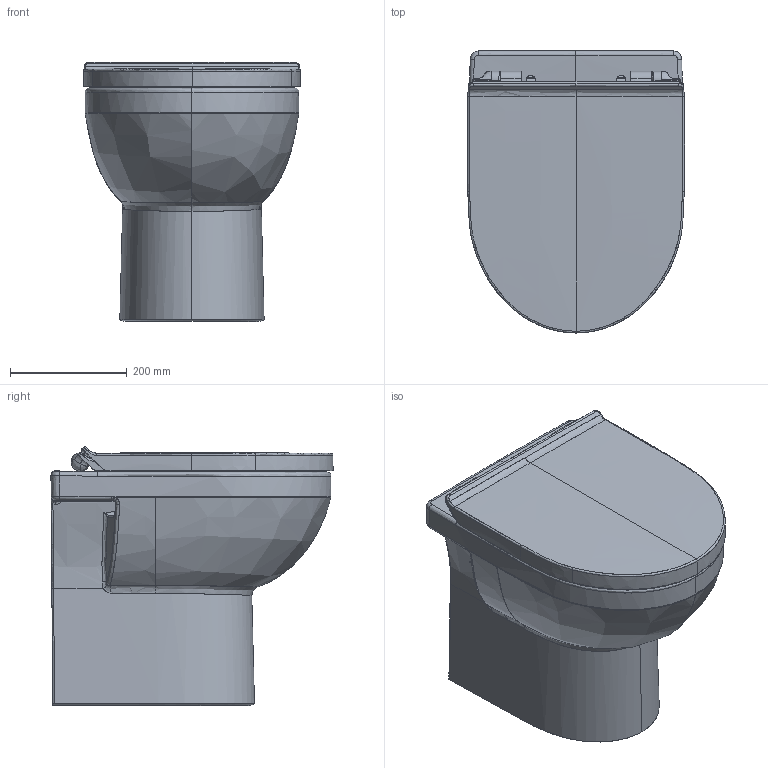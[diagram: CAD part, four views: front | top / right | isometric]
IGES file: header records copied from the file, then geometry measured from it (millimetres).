
Global section: file name: D:\Planungsdaten\CAD-News_2018\Keramik\DuraStyle_Basic\218409\Output\218409.igs; native system: Rhinoceros ( Sep 13 2016 ); preprocessor: Trout Lake IGES 012 Sep 13 2016; date: 180911.130128; units: millimetre
Bounding box: 372.58 x 483.6 x 444.21 mm (x, y, z)
Surface area: 1912450.1 mm2 (no closed solid volume)
Topology: 0 solids, 0 shells, 1235 faces, 14855 edges, 14819 vertices
Faces by surface type: bspline 1235
